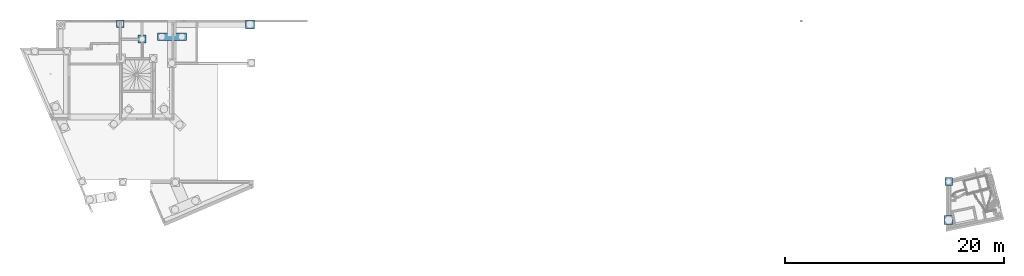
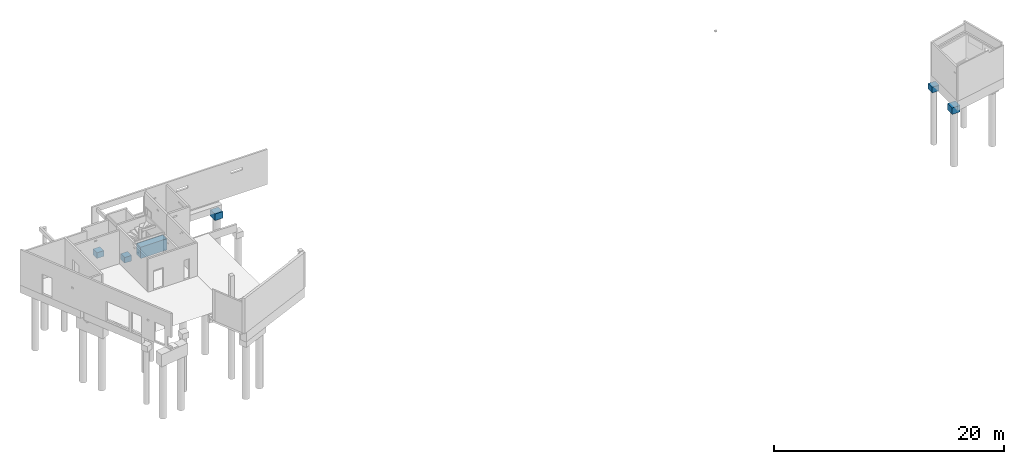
# One storey, part 12 of 29: 6 slabs.
"""IFC2X3 building model written with IfcOpenShell, lengths in centimetres."""

from ifc_helpers import new_model, entity, si_unit, converted_unit, derived_unit, direction, frame, origin, place, context, subcontext, project, spatial, faceted_brep, material, element, save


model = new_model("IFC2X3")

# Units and contexts
model_context = context("Model", 3, precision=0.001, world=origin(), true_north=direction((6.12303176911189e-17, 1.0)))
body_context = subcontext(model_context, "Body", "Model", "MODEL_VIEW")
ifc_project = project(units=[si_unit("LENGTHUNIT", "METRE", prefix="CENTI"), si_unit("AREAUNIT", "SQUARE_METRE"), si_unit("VOLUMEUNIT", "CUBIC_METRE"), converted_unit("PLANEANGLEUNIT", "DEGREE", entity("IfcRatioMeasure", 0.0174532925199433), si_unit("PLANEANGLEUNIT", "RADIAN"), dimensions=[0, 0, 0, 0, 0, 0, 0]), si_unit("MASSUNIT", "GRAM", prefix="KILO"), derived_unit("MASSDENSITYUNIT", [(si_unit("MASSUNIT", "GRAM", prefix="KILO"), 1), (si_unit("LENGTHUNIT", "METRE"), -3)]), si_unit("TIMEUNIT", "SECOND"), si_unit("FREQUENCYUNIT", "HERTZ"), si_unit("THERMODYNAMICTEMPERATUREUNIT", "DEGREE_CELSIUS"), derived_unit("THERMALTRANSMITTANCEUNIT", [(si_unit("MASSUNIT", "GRAM", prefix="KILO"), 1), (si_unit("THERMODYNAMICTEMPERATUREUNIT", "KELVIN"), -1), (si_unit("TIMEUNIT", "SECOND"), -3)]), derived_unit("VOLUMETRICFLOWRATEUNIT", [(si_unit("LENGTHUNIT", "METRE"), 3), (si_unit("TIMEUNIT", "SECOND"), -1)]), si_unit("ELECTRICCURRENTUNIT", "AMPERE"), si_unit("ELECTRICVOLTAGEUNIT", "VOLT"), si_unit("POWERUNIT", "WATT"), si_unit("FORCEUNIT", "NEWTON"), si_unit("ILLUMINANCEUNIT", "LUX"), si_unit("LUMINOUSFLUXUNIT", "LUMEN"), si_unit("LUMINOUSINTENSITYUNIT", "CANDELA"), derived_unit("USERDEFINED", [(si_unit("MASSUNIT", "GRAM", prefix="KILO"), -1), (si_unit("LENGTHUNIT", "METRE"), -2), (si_unit("TIMEUNIT", "SECOND"), 3), (si_unit("LUMINOUSFLUXUNIT", "LUMEN"), 1)]), derived_unit("LINEARVELOCITYUNIT", [(si_unit("LENGTHUNIT", "METRE"), 1), (si_unit("TIMEUNIT", "SECOND"), -1)]), si_unit("PRESSUREUNIT", "PASCAL"), derived_unit("USERDEFINED", [(si_unit("LENGTHUNIT", "METRE"), -2), (si_unit("MASSUNIT", "GRAM", prefix="KILO"), 1), (si_unit("TIMEUNIT", "SECOND"), -2)])], contexts=[model_context])

# Site, building, storey
site_placement = place(None, origin())
site = spatial("IfcSite", under=ifc_project, at=site_placement, Name="Default", CompositionType="ELEMENT")
building_placement = place(site_placement, origin())
building = spatial("IfcBuilding", under=site, at=building_placement, Name="CAGE 03", CompositionType="ELEMENT")
storey_placement = place(building_placement, frame((0.0, 0.0, -34.0)))
storey = spatial("IfcBuildingStorey", under=building, at=storey_placement, Name="+3.66", CompositionType="ELEMENT", Elevation=-34.0000000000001)

# Slabs
ifc_material = material(Name="Béton, C25/30")
slab_1_placement = place(storey_placement, frame((3628.36582014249, 5223.66066607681, -145.0)))
element("IfcSlab", 1, at=slab_1_placement, inside=storey, material=ifc_material, Name="M_Base-Rectangulaire:70x70x60ht", ObjectType="M_Base-Rectangulaire:70x70x60ht", PredefinedType="BASESLAB", context=body_context, shape_type="Brep", body=[
    faceted_brep([(35.0, 70.0, 60.0), (0.0, 70.0, 60.0), (0.0, 0.0, 60.0), (70.0, 0.0, 60.0), (70.0, 70.0, 60.0), (0.0, 0.0, 0.0), (4.49999999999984, 35.0, 0.0), (6.73331079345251, 29.6083107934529, 0.0), (0.0, 70.0, 0.0), (8.96662158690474, 24.2166215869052, 0.0), (11.1999323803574, 18.8249323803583, 0.0), (13.4332431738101, 13.4332431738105, 0.0), (18.8249323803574, 11.1999323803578, 0.0), (24.2166215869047, 8.96662158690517, 0.0), (29.6083107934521, 6.73331079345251, 0.0), (35.0, 4.49999999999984, 0.0), (70.0, 0.0, 0.0), (6.73331079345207, 40.3916892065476, 0.0), (8.96662158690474, 45.7833784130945, 0.0), (11.1999323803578, 51.1750676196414, 0.0), (13.4332431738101, 56.5667568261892, 0.0), (18.8249323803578, 58.8000676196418, 0.0), (24.2166215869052, 61.0333784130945, 0.0), (29.6083107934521, 63.2666892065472, 0.0), (35.0, 65.4999999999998, 0.0), (70.0, 70.0, 0.0), (65.4999999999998, 35.0, 0.0), (63.2666892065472, 40.3916892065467, 0.0), (61.0333784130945, 45.7833784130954, 0.0), (58.8000676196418, 51.1750676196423, 0.0), (56.5667568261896, 56.5667568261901, 0.0), (51.1750676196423, 58.8000676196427, 0.0), (45.7833784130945, 61.0333784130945, 0.0), (40.3916892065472, 63.2666892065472, 0.0), (40.3916892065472, 6.73331079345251, 0.0), (45.7833784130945, 8.96662158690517, 0.0), (51.1750676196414, 11.199932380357, 0.0), (56.5667568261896, 13.4332431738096, 0.0), (58.8000676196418, 18.8249323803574, 0.0), (61.0333784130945, 24.2166215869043, 0.0), (63.2666892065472, 29.6083107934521, 0.0), (35.0, 65.4999999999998, 5.0), (40.3916892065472, 63.2666892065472, 5.0), (45.7833784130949, 61.0333784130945, 5.0), (51.1750676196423, 58.8000676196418, 5.0), (56.5667568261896, 56.5667568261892, 5.0), (59.8147856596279, 48.7253215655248, 5.0), (62.6573928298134, 41.8626607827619, 5.0), (65.4999999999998, 35.0, 5.0), (62.6573928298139, 28.1373392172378, 5.0), (61.0333784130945, 24.2166215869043, 5.0), (58.8000676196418, 18.8249323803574, 5.0), (56.5667568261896, 13.4332431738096, 5.0), (51.1750676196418, 11.199932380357, 5.0), (45.7833784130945, 8.96662158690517, 5.0), (40.3916892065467, 6.73331079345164, 5.0), (35.0, 4.49999999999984, 5.0), (29.6083107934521, 6.73331079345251, 5.0), (24.2166215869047, 8.96662158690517, 5.0), (18.8249323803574, 11.1999323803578, 5.0), (13.4332431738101, 13.4332431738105, 5.0), (10.1852143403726, 21.2746784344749, 5.0), (7.34260717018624, 28.1373392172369, 5.0), (4.49999999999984, 35.0, 5.0), (7.34260717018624, 41.8626607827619, 5.0), (8.96662158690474, 45.7833784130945, 5.0), (11.1999323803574, 51.1750676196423, 5.0), (13.4332431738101, 56.5667568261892, 5.0), (18.8249323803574, 58.8000676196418, 5.0), (24.2166215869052, 61.0333784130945, 5.0), (29.6083107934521, 63.2666892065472, 5.0)], [[[0, 1, 2, 3, 4]], [[5, 6, 7]], [[6, 5, 8]], [[5, 7, 9]], [[5, 9, 10]], [[5, 10, 11]], [[5, 11, 12]], [[5, 12, 13]], [[5, 13, 14]], [[5, 14, 15]], [[15, 16, 5]], [[8, 17, 6]], [[8, 18, 17]], [[8, 19, 18]], [[8, 20, 19]], [[8, 21, 20]], [[8, 22, 21]], [[8, 23, 22]], [[8, 24, 23]], [[24, 8, 25]], [[26, 25, 16]], [[25, 26, 27]], [[25, 27, 28]], [[25, 28, 29]], [[25, 29, 30]], [[25, 30, 31]], [[25, 31, 32]], [[25, 32, 33]], [[25, 33, 24]], [[16, 15, 34]], [[16, 34, 35]], [[16, 35, 36]], [[16, 36, 37]], [[16, 37, 38]], [[16, 38, 39]], [[16, 39, 40]], [[16, 40, 26]], [[2, 1, 8, 5]], [[3, 2, 5, 16]], [[4, 3, 16, 25]], [[0, 4, 25, 8, 1]], [[41, 42, 43, 44, 45, 46, 47, 48, 49, 50, 51, 52, 53, 54, 55, 56, 57, 58, 59, 60, 61, 62, 63, 64, 65, 66, 67, 68, 69, 70]], [[11, 60, 59, 58, 57, 56, 15, 14, 13, 12]], [[40, 39, 38, 37, 52, 51, 50, 49, 48, 26]], [[11, 10, 9, 7, 6, 63, 62, 61, 60]], [[34, 15, 56, 55, 54, 53, 52, 37, 36, 35]], [[30, 45, 44, 43, 42, 41, 24, 33, 32, 31]], [[17, 18, 19, 20, 67, 66, 65, 64, 63, 6]], [[30, 29, 28, 27, 26, 48, 47, 46, 45]], [[23, 24, 41, 70, 69, 68, 67, 20, 21, 22]]]),
])
slab_2_placement = place(storey_placement, frame((3999.86582014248, 5106.66066607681, -205.0)))
element("IfcSlab", 2, at=slab_2_placement, inside=storey, material=ifc_material, Name="M_Base-Rectangulaire:265x70x120ht", ObjectType="M_Base-Rectangulaire:265x70x120ht", PredefinedType="BASESLAB", context=body_context, shape_type="Brep", body=[
    faceted_brep([(265.0, 70.0, 120.0), (0.0, 70.0, 120.0), (0.0, 0.0, 120.0), (265.0, 0.0, 120.0), (0.0, 0.0, 0.0), (19.43324317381, 13.4332431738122, 0.0), (24.8249323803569, 11.1999323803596, 0.0), (30.2166215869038, 8.9666215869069, 0.0), (35.6083107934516, 6.73331079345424, 0.0), (41.0, 4.50000000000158, 0.0), (265.0, 0.0, 0.0), (17.1999323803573, 18.82493238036, 0.0), (14.9666215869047, 24.2166215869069, 0.0), (12.7333107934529, 29.6083107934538, 0.0), (10.5000000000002, 35.0, 0.0), (0.0, 70.0, 0.0), (12.7333107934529, 40.3916892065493, 0.0), (14.9666215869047, 45.7833784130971, 0.0), (17.1999323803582, 51.1750676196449, 0.0), (19.4332431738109, 56.5667568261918, 0.0), (24.8249323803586, 58.8000676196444, 0.0), (30.2166215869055, 61.0333784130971, 0.0), (35.6083107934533, 63.2666892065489, 0.0), (41.0, 65.5000000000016, 0.0), (265.0, 70.0, 0.0), (71.5000000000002, 35.0, 0.0), (69.2666892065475, 40.3916892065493, 0.0), (46.391689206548, 63.2666892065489, 0.0), (51.7833784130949, 61.0333784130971, 0.0), (57.1750676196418, 58.8000676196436, 0.0), (62.5667568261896, 56.5667568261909, 0.0), (67.0333784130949, 45.7833784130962, 0.0), (64.8000676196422, 51.175067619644, 0.0), (46.3916892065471, 6.73331079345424, 0.0), (51.7833784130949, 8.96662158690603, 0.0), (57.1750676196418, 11.1999323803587, 0.0), (62.5667568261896, 13.4332431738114, 0.0), (64.8000676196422, 18.8249323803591, 0.0), (67.0333784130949, 24.2166215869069, 0.0), (69.2666892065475, 29.6083107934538, 0.0), (41.0, 65.5000000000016, 5.0), (46.391689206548, 63.2666892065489, 5.0), (51.7833784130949, 61.0333784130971, 5.0), (57.1750676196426, 58.8000676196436, 5.0), (62.5667568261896, 56.5667568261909, 5.0), (65.8147856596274, 48.7253215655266, 5.0), (68.6573928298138, 41.8626607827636, 5.0), (71.5000000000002, 35.0, 5.0), (68.6573928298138, 28.1373392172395, 5.0), (67.0333784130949, 24.2166215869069, 5.0), (64.8000676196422, 18.8249323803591, 5.0), (62.5667568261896, 13.4332431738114, 5.0), (57.1750676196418, 11.1999323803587, 5.0), (51.7833784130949, 8.96662158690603, 5.0), (46.391689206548, 6.73331079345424, 5.0), (41.0, 4.50000000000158, 5.0), (35.6083107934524, 6.73331079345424, 5.0), (30.2166215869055, 8.9666215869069, 5.0), (24.8249323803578, 11.1999323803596, 5.0), (19.43324317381, 13.4332431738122, 5.0), (16.1852143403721, 21.2746784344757, 5.0), (13.3426071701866, 28.1373392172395, 5.0), (10.5000000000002, 35.0, 5.0), (13.3426071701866, 41.8626607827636, 5.0), (14.9666215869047, 45.7833784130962, 5.0), (17.1999323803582, 51.175067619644, 5.0), (19.4332431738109, 56.5667568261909, 5.0), (24.8249323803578, 58.8000676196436, 5.0), (30.2166215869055, 61.0333784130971, 5.0), (35.6083107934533, 63.2666892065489, 5.0)], [[[0, 1, 2, 3]], [[4, 5, 6]], [[4, 6, 7]], [[4, 7, 8]], [[4, 8, 9]], [[4, 9, 10]], [[4, 11, 5]], [[4, 12, 11]], [[4, 13, 12]], [[4, 14, 13]], [[15, 14, 4]], [[15, 16, 14]], [[15, 17, 16]], [[15, 18, 17]], [[15, 19, 18]], [[15, 20, 19]], [[15, 21, 20]], [[15, 22, 21]], [[15, 23, 22]], [[24, 23, 15]], [[10, 25, 24]], [[24, 25, 26]], [[24, 27, 23]], [[24, 28, 27]], [[24, 29, 28]], [[24, 30, 29]], [[24, 26, 31]], [[24, 31, 32]], [[24, 32, 30]], [[10, 9, 33]], [[10, 33, 34]], [[10, 34, 35]], [[10, 35, 36]], [[10, 36, 37]], [[10, 37, 38]], [[10, 38, 39]], [[10, 39, 25]], [[2, 1, 15, 4]], [[3, 2, 4, 10]], [[0, 3, 10, 24]], [[1, 0, 24, 15]], [[40, 41, 42, 43, 44, 45, 46, 47, 48, 49, 50, 51, 52, 53, 54, 55, 56, 57, 58, 59, 60, 61, 62, 63, 64, 65, 66, 67, 68, 69]], [[5, 59, 58, 57, 56, 55, 9, 8, 7, 6]], [[39, 38, 37, 36, 51, 50, 49, 48, 47, 25]], [[5, 11, 12, 13, 14, 62, 61, 60, 59]], [[33, 9, 55, 54, 53, 52, 51, 36, 35, 34]], [[30, 44, 43, 42, 41, 40, 23, 27, 28, 29]], [[16, 17, 18, 19, 66, 65, 64, 63, 62, 14]], [[30, 32, 31, 26, 25, 47, 46, 45, 44]], [[22, 23, 40, 69, 68, 67, 66, 19, 20, 21]]]),
])
slab_3_placement = place(storey_placement, frame((4806.36582014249, 5213.66066607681, -150.0)))
element("IfcSlab", 3, at=slab_3_placement, inside=storey, material=ifc_material, Name="M_Base-Rectangulaire:80x80x70ht", ObjectType="M_Base-Rectangulaire:80x80x70ht", PredefinedType="BASESLAB", context=body_context, shape_type="Brep", body=[
    faceted_brep([(80.0, 80.0, 70.0), (0.0, 80.0, 70.0), (0.0, 0.0, 70.0), (80.0, 0.0, 70.0), (80.0, 10.0, 70.0), (0.0, 0.0, 0.0), (6.50000000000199, 40.0, 0.0), (8.68580031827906, 34.3577989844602, 0.0), (0.0, 80.0, 0.0), (10.8716006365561, 28.7155979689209, 0.0), (13.0574009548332, 23.0733969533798, 0.0), (15.2432012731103, 17.4311959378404, 0.0), (22.2051484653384, 14.7341232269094, 0.0), (29.1670956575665, 12.0370505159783, 0.0), (36.1290428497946, 9.33997780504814, 0.0), (43.0909900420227, 6.6429050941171, 0.0), (80.0, 0.0, 0.0), (8.68580031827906, 45.6422010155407, 0.0), (10.8716006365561, 51.28440203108, 0.0), (13.0574009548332, 56.9266030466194, 0.0), (15.2432012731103, 62.5688040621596, 0.0), (20.6596534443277, 65.2658767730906, 0.0), (26.076105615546, 67.9629494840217, 0.0), (31.4925577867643, 70.6600221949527, 0.0), (36.9090099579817, 73.3570949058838, 0.0), (80.0, 80.0, 0.0), (73.5000000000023, 40.0, 0.0), (71.3141996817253, 45.6422010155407, 0.0), (69.1283993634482, 51.28440203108, 0.0), (66.9425990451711, 56.9266030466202, 0.0), (64.756798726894, 62.5688040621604, 0.0), (57.794851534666, 65.2658767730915, 0.0), (50.8329043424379, 67.9629494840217, 0.0), (43.8709571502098, 70.6600221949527, 0.0), (48.5074422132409, 9.33997780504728, 0.0), (53.9238943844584, 12.0370505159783, 0.0), (59.3403465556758, 14.7341232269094, 0.0), (64.756798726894, 17.4311959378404, 0.0), (66.9425990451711, 23.0733969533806, 0.0), (69.1283993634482, 28.7155979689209, 0.0), (71.3141996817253, 34.3577989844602, 0.0), (64.756798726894, 17.4311959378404, 5.0), (57.794851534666, 14.7341232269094, 5.0), (50.8329043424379, 12.0370505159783, 5.0), (43.8709571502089, 9.33997780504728, 5.0), (36.9090099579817, 6.6429050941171, 5.0), (31.4925577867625, 9.33997780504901, 5.0), (26.0761056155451, 12.0370505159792, 5.0), (20.6596534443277, 14.7341232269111, 5.0), (15.2432012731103, 17.4311959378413, 5.0), (13.0574009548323, 23.0733969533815, 5.0), (10.8716006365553, 28.7155979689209, 5.0), (9.32055531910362, 32.7193074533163, 5.0), (6.50000000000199, 40.0, 5.0), (9.32055531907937, 47.280692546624, 5.0), (10.8716006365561, 51.28440203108, 5.0), (13.0574009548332, 56.9266030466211, 5.0), (15.2432012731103, 62.5688040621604, 5.0), (22.2051484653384, 65.2658767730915, 5.0), (29.1670956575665, 67.9629494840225, 5.0), (36.1290428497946, 70.6600221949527, 5.0), (43.0909900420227, 73.3570949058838, 5.0), (48.5074422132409, 70.6600221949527, 5.0), (53.9238943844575, 67.9629494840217, 5.0), (59.3403465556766, 65.2658767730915, 5.0), (64.756798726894, 62.5688040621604, 5.0), (66.9425990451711, 56.9266030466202, 5.0), (69.1283993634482, 51.28440203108, 5.0), (70.679444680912, 47.2806925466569, 5.0), (73.5000000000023, 40.0, 5.0), (70.6794446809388, 32.7193074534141, 5.0), (69.1283993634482, 28.7155979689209, 5.0), (66.9425990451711, 23.0733969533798, 5.0)], [[[0, 1, 2, 3, 4]], [[5, 6, 7]], [[6, 5, 8]], [[5, 7, 9]], [[5, 9, 10]], [[5, 10, 11]], [[5, 11, 12]], [[5, 12, 13]], [[5, 13, 14]], [[5, 14, 15]], [[15, 16, 5]], [[8, 17, 6]], [[8, 18, 17]], [[8, 19, 18]], [[8, 20, 19]], [[8, 21, 20]], [[8, 22, 21]], [[8, 23, 22]], [[8, 24, 23]], [[24, 8, 25]], [[26, 25, 16]], [[25, 26, 27]], [[25, 27, 28]], [[25, 28, 29]], [[25, 29, 30]], [[25, 30, 31]], [[25, 31, 32]], [[25, 32, 33]], [[25, 33, 24]], [[16, 15, 34]], [[16, 34, 35]], [[16, 35, 36]], [[16, 36, 37]], [[16, 37, 38]], [[16, 38, 39]], [[16, 39, 40]], [[16, 40, 26]], [[2, 1, 8, 5]], [[3, 2, 5, 16]], [[4, 3, 16, 25, 0]], [[1, 0, 25, 8]], [[41, 42, 43, 44, 45, 46, 47, 48, 49, 50, 51, 52, 53, 54, 55, 56, 57, 58, 59, 60, 61, 62, 63, 64, 65, 66, 67, 68, 69, 70, 71, 72]], [[7, 6, 53, 52, 51, 50, 49, 11, 10, 9]], [[40, 39, 38, 37, 41, 72, 71, 70, 69, 26]], [[49, 48, 11]], [[48, 47, 12]], [[37, 36, 41]], [[43, 34, 44]], [[36, 42, 41]], [[15, 14, 45]], [[13, 12, 47]], [[48, 12, 11]], [[36, 35, 42]], [[42, 35, 43]], [[13, 46, 14]], [[15, 44, 34]], [[43, 35, 34]], [[45, 14, 46]], [[13, 47, 46]], [[15, 45, 44]], [[27, 26, 69, 68, 67, 66, 65, 30, 29, 28]], [[17, 18, 19, 20, 57, 56, 55, 54, 53, 6]], [[65, 64, 30]], [[64, 63, 31]], [[20, 21, 57]], [[59, 23, 60]], [[21, 58, 57]], [[24, 33, 61]], [[32, 31, 63]], [[64, 31, 30]], [[21, 22, 58]], [[58, 22, 59]], [[32, 62, 33]], [[24, 60, 23]], [[59, 22, 23]], [[61, 33, 62]], [[32, 63, 62]], [[24, 61, 60]]]),
])
slab_4_placement = place(storey_placement, frame((3826.36582014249, 5084.66066607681, -180.0)))
element("IfcSlab", 4, at=slab_4_placement, inside=storey, material=ifc_material, Name="M_Base-Rectangulaire:70x70x60ht", ObjectType="M_Base-Rectangulaire:70x70x60ht", PredefinedType="BASESLAB", context=body_context, shape_type="Brep", body=[
    faceted_brep([(70.0, 70.0, 60.0), (0.0, 70.0, 60.0), (0.0, 0.0, 60.0), (70.0, 0.0, 60.0), (0.0, 0.0, 0.0), (8.50000000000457, 35.0, 0.0), (10.692009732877, 30.0766655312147, 0.0), (0.0, 70.0, 0.0), (12.8840194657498, 25.153331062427, 0.0), (15.0760291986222, 20.2299965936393, 0.0), (17.2680389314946, 15.3066621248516, 0.0), (22.3935302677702, 13.6412890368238, 0.0), (27.5190216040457, 11.9759159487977, 0.0), (32.644512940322, 10.3105428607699, 0.0), (37.7700042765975, 8.64516977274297, 0.0), (70.0, 0.0, 0.0), (11.0305248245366, 42.7881545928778, 0.0), (13.5610496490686, 50.5763091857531, 0.0), (18.2282861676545, 53.2709394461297, 0.0), (22.8955226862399, 55.9655697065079, 0.0), (27.5627592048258, 58.6601999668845, 0.0), (32.2299957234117, 61.3548302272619, 0.0), (70.0, 70.0, 0.0), (61.5000000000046, 35.0, 0.0), (59.3079902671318, 39.9233344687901, 0.0), (57.1159805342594, 44.8466689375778, 0.0), (54.9239708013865, 49.7700034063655, 0.0), (52.7319610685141, 54.6933378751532, 0.0), (47.6064697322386, 56.3587109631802, 0.0), (42.4809783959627, 58.0240840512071, 0.0), (37.3554870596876, 59.689457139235, 0.0), (42.4372407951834, 11.3398000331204, 0.0), (47.1044773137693, 14.0344302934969, 0.0), (51.7717138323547, 16.7290605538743, 0.0), (56.4389503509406, 19.4236908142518, 0.0), (58.9694751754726, 27.2118454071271, 0.0), (8.50000000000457, 35.0, 5.0), (10.692009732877, 39.9233344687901, 5.0), (12.8840194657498, 44.8466689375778, 5.0), (15.0760291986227, 49.7700034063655, 5.0), (17.2680389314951, 54.6933378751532, 5.0), (22.393530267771, 56.3587109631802, 5.0), (27.5190216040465, 58.0240840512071, 5.0), (32.644512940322, 59.689457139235, 5.0), (37.7700042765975, 61.3548302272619, 5.0), (42.4372407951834, 58.6601999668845, 5.0), (47.1044773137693, 55.9655697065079, 5.0), (51.7717138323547, 53.2709394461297, 5.0), (56.4389503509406, 50.5763091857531, 5.0), (58.9694751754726, 42.7881545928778, 5.0), (61.5000000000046, 35.0, 5.0), (59.3079902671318, 30.0766655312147, 5.0), (57.1159805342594, 25.153331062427, 5.0), (54.923970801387, 20.2299965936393, 5.0), (52.7319610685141, 15.3066621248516, 5.0), (47.6064697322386, 13.6412890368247, 5.0), (42.4809783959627, 11.9759159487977, 5.0), (37.3554870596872, 10.3105428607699, 5.0), (32.2299957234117, 8.64516977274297, 5.0), (27.5627592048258, 11.3398000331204, 5.0), (22.8955226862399, 14.0344302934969, 5.0), (18.228286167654, 16.7290605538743, 5.0), (13.5610496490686, 19.4236908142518, 5.0), (11.0305248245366, 27.2118454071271, 5.0)], [[[0, 1, 2, 3]], [[4, 5, 6]], [[5, 4, 7]], [[4, 6, 8]], [[4, 8, 9]], [[4, 9, 10]], [[4, 10, 11]], [[4, 11, 12]], [[4, 12, 13]], [[4, 13, 14]], [[14, 15, 4]], [[7, 16, 5]], [[7, 17, 16]], [[7, 18, 17]], [[7, 19, 18]], [[7, 20, 19]], [[7, 21, 20]], [[21, 7, 22]], [[23, 22, 15]], [[22, 23, 24]], [[22, 24, 25]], [[22, 25, 26]], [[22, 26, 27]], [[22, 27, 28]], [[22, 28, 29]], [[22, 29, 30]], [[22, 30, 21]], [[15, 14, 31]], [[15, 31, 32]], [[15, 32, 33]], [[15, 33, 34]], [[15, 34, 35]], [[15, 35, 23]], [[2, 1, 7, 4]], [[3, 2, 4, 15]], [[0, 3, 15, 22]], [[1, 0, 22, 7]], [[36, 37, 38, 39, 40, 41, 42, 43, 44, 45, 46, 47, 48, 49, 50, 51, 52, 53, 54, 55, 56, 57, 58, 59, 60, 61, 62, 63]], [[9, 8, 62]], [[63, 6, 36]], [[63, 62, 8]], [[62, 61, 9]], [[35, 34, 52]], [[59, 58, 12]], [[36, 6, 5]], [[32, 55, 33]], [[11, 10, 60]], [[34, 33, 54]], [[35, 51, 23]], [[12, 58, 13]], [[60, 10, 61]], [[8, 6, 63]], [[57, 13, 58]], [[61, 10, 9]], [[56, 55, 32]], [[11, 59, 12]], [[54, 33, 55]], [[53, 52, 34, 54]], [[57, 14, 13]], [[31, 14, 56, 32]], [[11, 60, 59]], [[50, 23, 51]], [[57, 56, 14]], [[35, 52, 51]], [[26, 25, 48]], [[49, 24, 50]], [[49, 48, 25]], [[48, 47, 26]], [[46, 27, 47]], [[45, 28, 46]], [[50, 24, 23]], [[21, 43, 20]], [[45, 44, 29]], [[39, 38, 17, 40]], [[16, 37, 5]], [[29, 44, 30]], [[25, 24, 49]], [[43, 21, 30]], [[47, 27, 26]], [[42, 41, 19]], [[28, 27, 46]], [[16, 17, 38]], [[45, 29, 28]], [[36, 5, 37]], [[42, 20, 43]], [[40, 18, 41]], [[19, 41, 18]], [[40, 17, 18]], [[43, 30, 44]], [[42, 19, 20]], [[16, 38, 37]]]),
])
slab_5_placement = place(storey_placement, frame((11183.8658201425, 3427.24430663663, -171.0)))
element("IfcSlab", 5, at=slab_5_placement, inside=storey, material=ifc_material, Name="M_Base-Rectangulaire:80x80x70ht", ObjectType="M_Base-Rectangulaire:80x80x70ht", PredefinedType="BASESLAB", context=body_context, shape_type="Brep", body=[
    faceted_brep([(80.0, 80.0, 70.0), (0.0, 80.0, 70.0), (0.0, 0.0, 70.0), (80.0, 0.0, 70.0), (0.0, 0.0, 0.0), (4.0, 40.0, 0.0), (6.34891974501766, 33.9367392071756, 0.0), (0.0, 80.0, 0.0), (8.69783949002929, 27.8734784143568, 0.0), (11.0467592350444, 21.810217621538, 0.0), (13.3956789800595, 15.7469568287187, 0.0), (20.8771744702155, 12.8486100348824, 0.0), (28.3586699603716, 9.95026324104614, 0.0), (35.8401654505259, 7.05191644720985, 0.0), (43.321660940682, 4.15356965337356, 0.0), (80.0, 0.0, 0.0), (6.34891974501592, 46.063260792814, 0.0), (8.69783949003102, 52.1265215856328, 0.0), (11.0467592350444, 58.1897823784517, 0.0), (13.3956789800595, 64.2530431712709, 0.0), (19.2163439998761, 67.1513899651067, 0.0), (25.0370090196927, 70.0497367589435, 0.0), (30.8576740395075, 72.9480835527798, 0.0), (36.6783390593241, 75.846430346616, 0.0), (80.0, 80.0, 0.0), (76.0, 40.0, 0.0), (73.6510802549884, 46.063260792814, 0.0), (71.302160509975, 52.1265215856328, 0.0), (68.9532407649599, 58.1897823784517, 0.0), (66.6043210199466, 64.2530431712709, 0.0), (59.1228255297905, 67.1513899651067, 0.0), (51.6413300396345, 70.0497367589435, 0.0), (44.1598345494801, 72.9480835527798, 0.0), (49.1423259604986, 7.05191644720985, 0.0), (54.9629909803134, 9.95026324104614, 0.0), (60.7836560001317, 12.8486100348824, 0.0), (66.6043210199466, 15.7469568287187, 0.0), (68.9532407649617, 21.8102176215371, 0.0), (71.302160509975, 27.8734784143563, 0.0), (73.6510802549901, 33.9367392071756, 0.0), (66.6043210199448, 15.7469568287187, 5.0), (59.1228255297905, 12.848610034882, 5.0), (51.6413300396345, 9.95026324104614, 5.0), (44.1598345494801, 7.05191644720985, 5.0), (36.6783390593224, 4.15356965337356, 5.0), (30.8576740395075, 7.05191644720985, 5.0), (25.0370090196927, 9.95026324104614, 5.0), (19.2163439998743, 12.8486100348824, 5.0), (13.3956789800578, 15.7469568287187, 5.0), (11.0467592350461, 21.810217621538, 5.0), (8.69783949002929, 27.8734784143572, 5.0), (6.92390641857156, 32.4525275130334, 5.0), (4.0, 40.0, 5.0), (6.92390641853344, 47.5474724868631, 5.0), (8.69783949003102, 52.1265215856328, 5.0), (11.0467592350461, 58.1897823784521, 5.0), (13.3956789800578, 64.2530431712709, 5.0), (20.8771744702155, 67.1513899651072, 5.0), (28.3586699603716, 70.0497367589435, 5.0), (35.8401654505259, 72.9480835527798, 5.0), (43.3216609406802, 75.846430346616, 5.0), (49.1423259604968, 72.9480835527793, 5.0), (54.9629909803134, 70.0497367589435, 5.0), (60.78365600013, 67.1513899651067, 5.0), (66.6043210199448, 64.2530431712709, 5.0), (68.9532407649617, 58.1897823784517, 5.0), (71.3021605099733, 52.1265215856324, 5.0), (73.0760935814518, 47.5474724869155, 5.0), (76.0, 40.0, 5.0), (73.0760935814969, 32.4525275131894, 5.0), (71.302160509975, 27.8734784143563, 5.0), (68.9532407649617, 21.8102176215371, 5.0)], [[[0, 1, 2, 3]], [[4, 5, 6]], [[5, 4, 7]], [[4, 6, 8]], [[4, 8, 9]], [[4, 9, 10]], [[4, 10, 11]], [[4, 11, 12]], [[4, 12, 13]], [[4, 13, 14]], [[14, 15, 4]], [[7, 16, 5]], [[7, 17, 16]], [[7, 18, 17]], [[7, 19, 18]], [[7, 20, 19]], [[7, 21, 20]], [[7, 22, 21]], [[7, 23, 22]], [[23, 7, 24]], [[25, 24, 15]], [[24, 25, 26]], [[24, 26, 27]], [[24, 27, 28]], [[24, 28, 29]], [[24, 29, 30]], [[24, 30, 31]], [[24, 31, 32]], [[24, 32, 23]], [[15, 14, 33]], [[15, 33, 34]], [[15, 34, 35]], [[15, 35, 36]], [[15, 36, 37]], [[15, 37, 38]], [[15, 38, 39]], [[15, 39, 25]], [[2, 1, 7, 4]], [[3, 2, 4, 15]], [[0, 3, 15, 24]], [[1, 0, 24, 7]], [[40, 41, 42, 43, 44, 45, 46, 47, 48, 49, 50, 51, 52, 53, 54, 55, 56, 57, 58, 59, 60, 61, 62, 63, 64, 65, 66, 67, 68, 69, 70, 71]], [[6, 5, 52, 51, 50, 49, 48, 10, 9, 8]], [[39, 38, 37, 36, 40, 71, 70, 69, 68, 25]], [[48, 47, 10]], [[47, 46, 11]], [[36, 35, 40]], [[42, 33, 43]], [[35, 41, 40]], [[14, 13, 44]], [[12, 11, 46]], [[47, 11, 10]], [[35, 34, 41]], [[41, 34, 42]], [[12, 45, 13]], [[14, 43, 33]], [[42, 34, 33]], [[44, 13, 45]], [[12, 46, 45]], [[14, 44, 43]], [[26, 25, 68, 67, 66, 65, 64, 29, 28, 27]], [[16, 17, 18, 19, 56, 55, 54, 53, 52, 5]], [[64, 63, 29]], [[63, 62, 30]], [[19, 20, 56]], [[58, 22, 59]], [[20, 57, 56]], [[23, 32, 60]], [[31, 30, 62]], [[63, 30, 29]], [[20, 21, 57]], [[57, 21, 58]], [[31, 61, 32]], [[23, 59, 22]], [[58, 21, 22]], [[60, 32, 61]], [[31, 62, 61]], [[23, 60, 59]]]),
])
slab_6_placement = place(storey_placement, frame((11188.8658201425, 3783.88631753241, -161.0)))
element("IfcSlab", 6, at=slab_6_placement, inside=storey, material=ifc_material, Name="M_Base-Rectangulaire:70x70x60ht", ObjectType="M_Base-Rectangulaire:70x70x60ht", PredefinedType="BASESLAB", context=body_context, shape_type="Brep", body=[
    faceted_brep([(70.0, 70.0, 60.0), (0.0, 70.0, 60.0), (0.0, 0.0, 60.0), (70.0, 0.0, 60.0), (0.0, 0.0, 0.0), (8.500000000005, 35.0, 0.0), (10.692009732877, 30.0766655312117, 0.0), (0.0, 70.0, 0.0), (12.8840194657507, 25.153331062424, 0.0), (15.0760291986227, 20.2299965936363, 0.0), (17.2680389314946, 15.3066621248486, 0.0), (22.3935302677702, 13.6412890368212, 0.0), (27.5190216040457, 11.9759159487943, 0.0), (32.6445129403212, 10.3105428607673, 0.0), (37.7700042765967, 8.64516977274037, 0.0), (70.0, 0.0, 0.0), (11.0305248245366, 42.7881545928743, 0.0), (13.5610496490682, 50.5763091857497, 0.0), (18.2282861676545, 53.2709394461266, 0.0), (22.895522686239, 55.9655697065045, 0.0), (27.5627592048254, 58.6601999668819, 0.0), (32.2299957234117, 61.3548302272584, 0.0), (70.0, 70.0, 0.0), (61.5000000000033, 35.0, 0.0), (59.3079902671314, 39.9233344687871, 0.0), (57.1159805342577, 44.8466689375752, 0.0), (54.9239708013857, 49.7700034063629, 0.0), (52.7319610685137, 54.6933378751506, 0.0), (47.6064697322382, 56.3587109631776, 0.0), (42.4809783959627, 58.0240840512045, 0.0), (37.3554870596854, 59.6894571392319, 0.0), (42.437240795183, 11.3398000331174, 0.0), (47.1044773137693, 14.0344302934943, 0.0), (51.7717138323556, 16.7290605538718, 0.0), (56.4389503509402, 19.4236908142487, 0.0), (58.9694751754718, 27.2118454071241, 0.0), (8.50000000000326, 35.0, 5.0), (10.692009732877, 39.9233344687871, 5.0), (12.884019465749, 44.8466689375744, 5.0), (15.0760291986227, 49.7700034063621, 5.0), (17.2680389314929, 54.6933378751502, 5.0), (22.3935302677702, 56.3587109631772, 5.0), (27.5190216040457, 58.0240840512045, 5.0), (32.6445129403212, 59.6894571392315, 5.0), (37.7700042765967, 61.3548302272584, 5.0), (42.4372407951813, 58.6601999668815, 5.0), (47.1044773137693, 55.9655697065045, 5.0), (51.7717138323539, 53.2709394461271, 5.0), (56.4389503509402, 50.5763091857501, 5.0), (58.9694751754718, 42.7881545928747, 5.0), (61.5000000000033, 35.0, 5.0), (59.3079902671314, 30.0766655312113, 5.0), (57.1159805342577, 25.1533310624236, 5.0), (54.9239708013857, 20.2299965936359, 5.0), (52.7319610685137, 15.3066621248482, 5.0), (47.6064697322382, 13.6412890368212, 5.0), (42.4809783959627, 11.9759159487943, 5.0), (37.3554870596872, 10.3105428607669, 5.0), (32.2299957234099, 8.64516977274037, 5.0), (27.5627592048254, 11.3398000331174, 5.0), (22.895522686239, 14.0344302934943, 5.0), (18.2282861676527, 16.7290605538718, 5.0), (13.5610496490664, 19.4236908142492, 5.0), (11.0305248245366, 27.2118454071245, 5.0)], [[[0, 1, 2, 3]], [[4, 5, 6]], [[5, 4, 7]], [[4, 6, 8]], [[4, 8, 9]], [[4, 9, 10]], [[4, 10, 11]], [[4, 11, 12]], [[4, 12, 13]], [[4, 13, 14]], [[14, 15, 4]], [[7, 16, 5]], [[7, 17, 16]], [[7, 18, 17]], [[7, 19, 18]], [[7, 20, 19]], [[7, 21, 20]], [[21, 7, 22]], [[23, 22, 15]], [[22, 23, 24]], [[22, 24, 25]], [[22, 25, 26]], [[22, 26, 27]], [[22, 27, 28]], [[22, 28, 29]], [[22, 29, 30]], [[22, 30, 21]], [[15, 14, 31]], [[15, 31, 32]], [[15, 32, 33]], [[15, 33, 34]], [[15, 34, 35]], [[15, 35, 23]], [[2, 1, 7, 4]], [[3, 2, 4, 15]], [[0, 3, 15, 22]], [[1, 0, 22, 7]], [[36, 37, 38, 39, 40, 41, 42, 43, 44, 45, 46, 47, 48, 49, 50, 51, 52, 53, 54, 55, 56, 57, 58, 59, 60, 61, 62, 63]], [[9, 8, 62]], [[63, 6, 36]], [[63, 62, 8]], [[62, 61, 9]], [[35, 34, 52]], [[59, 58, 12]], [[36, 6, 5]], [[32, 55, 33]], [[11, 10, 60]], [[34, 33, 54]], [[35, 51, 23]], [[12, 58, 13]], [[60, 10, 61]], [[8, 6, 63]], [[57, 13, 58]], [[61, 10, 9]], [[56, 55, 32]], [[11, 59, 12]], [[54, 33, 55]], [[53, 52, 34, 54]], [[57, 14, 13]], [[31, 14, 56, 32]], [[11, 60, 59]], [[50, 23, 51]], [[57, 56, 14]], [[35, 52, 51]], [[26, 25, 48]], [[49, 24, 50]], [[49, 48, 25]], [[48, 47, 26]], [[46, 27, 47]], [[45, 28, 46]], [[50, 24, 23]], [[21, 43, 20]], [[45, 44, 29]], [[39, 38, 17, 40]], [[16, 37, 5]], [[29, 44, 30]], [[25, 24, 49]], [[43, 21, 30]], [[47, 27, 26]], [[42, 41, 19]], [[28, 27, 46]], [[16, 17, 38]], [[45, 29, 28]], [[36, 5, 37]], [[42, 20, 43]], [[40, 18, 41]], [[19, 41, 18]], [[40, 17, 18]], [[43, 30, 44]], [[42, 19, 20]], [[16, 38, 37]]]),
])

save(model, "model.ifc")
